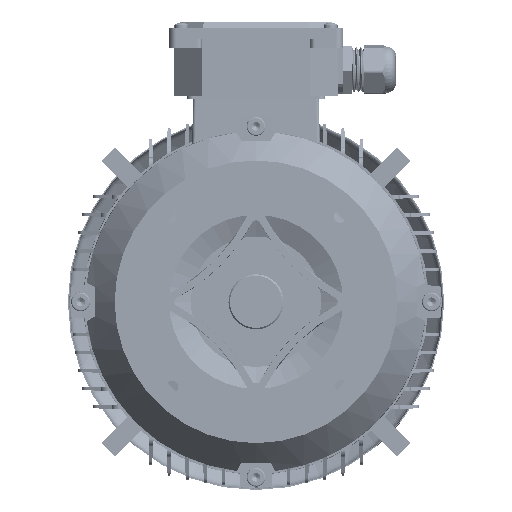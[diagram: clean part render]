
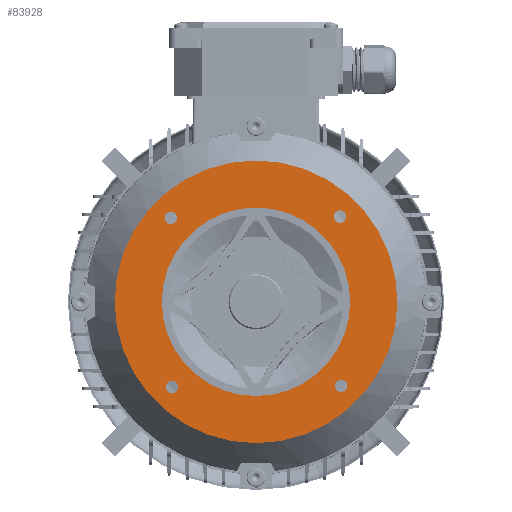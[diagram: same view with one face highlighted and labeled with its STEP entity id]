
A CAD part, front view. The second image highlights one B-rep face of the part: STEP entity #83928.
In plain terms, the highlighted planar face has unit normal (0, -1, 0).
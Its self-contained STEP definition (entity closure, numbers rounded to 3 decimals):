
#1630 = CARTESIAN_POINT ( 'NONE',  ( -57.886, 3.5, -58.783 ) ) ;
#3690 = DIRECTION ( 'NONE',  ( 0., -1., 0. ) ) ;
#4156 = VERTEX_POINT ( 'NONE', #36191 ) ;
#4999 = CIRCLE ( 'NONE', #121334, 4.25 ) ;
#5506 = DIRECTION ( 'NONE',  ( 0., 0., -1. ) ) ;
#6209 = DIRECTION ( 'NONE',  ( 0., -1., 0. ) ) ;
#6800 = EDGE_CURVE ( 'NONE', #69213, #51944, #120770, .T. ) ;
#11183 = CIRCLE ( 'NONE', #17909, 97.5 ) ;
#11679 = EDGE_CURVE ( 'NONE', #4156, #41460, #11183, .T. ) ;
#12064 = DIRECTION ( 'NONE',  ( 0., 0., -1. ) ) ;
#13130 = CARTESIAN_POINT ( 'NONE',  ( -58.783, 3.5, 57.886 ) ) ;
#14325 = CARTESIAN_POINT ( 'NONE',  ( -57.886, 3.5, -54.533 ) ) ;
#16997 = EDGE_CURVE ( 'NONE', #92173, #47431, #4999, .T. ) ;
#17909 = AXIS2_PLACEMENT_3D ( 'NONE', #20717, #93012, #31100 ) ;
#19486 = FACE_BOUND ( 'NONE', #46334, .T. ) ;
#20717 = CARTESIAN_POINT ( 'NONE',  ( 0., 3.5, 0. ) ) ;
#21662 = ORIENTED_EDGE ( 'NONE', *, *, #74277, .F. ) ;
#21903 = AXIS2_PLACEMENT_3D ( 'NONE', #109409, #47461, #119831 ) ;
#22283 = CARTESIAN_POINT ( 'NONE',  ( 0., 3.5, 97.5 ) ) ;
#22712 = VERTEX_POINT ( 'NONE', #44700 ) ;
#23581 = DIRECTION ( 'NONE',  ( 0., 0., -1. ) ) ;
#25705 = ORIENTED_EDGE ( 'NONE', *, *, #28345, .F. ) ;
#26403 = DIRECTION ( 'NONE',  ( 0., -1., 0. ) ) ;
#26617 = ORIENTED_EDGE ( 'NONE', *, *, #16997, .F. ) ;
#28345 = EDGE_CURVE ( 'NONE', #58286, #36464, #66119, .T. ) ;
#28550 = ORIENTED_EDGE ( 'NONE', *, *, #92342, .F. ) ;
#29255 = DIRECTION ( 'NONE',  ( 0., -1., 0. ) ) ;
#30010 = AXIS2_PLACEMENT_3D ( 'NONE', #49395, #121820, #59836 ) ;
#31100 = DIRECTION ( 'NONE',  ( 0., 0., -1. ) ) ;
#31854 = CARTESIAN_POINT ( 'NONE',  ( 0., 3.5, 0. ) ) ;
#34016 = AXIS2_PLACEMENT_3D ( 'NONE', #130166, #6209, #78605 ) ;
#34078 = EDGE_CURVE ( 'NONE', #22712, #116039, #36110, .T. ) ;
#36110 = CIRCLE ( 'NONE', #81292, 4.25 ) ;
#36191 = CARTESIAN_POINT ( 'NONE',  ( 0., 3.5, -97.5 ) ) ;
#36464 = VERTEX_POINT ( 'NONE', #92837 ) ;
#36499 = VERTEX_POINT ( 'NONE', #83300 ) ;
#41241 = EDGE_CURVE ( 'NONE', #51944, #69213, #121229, .T. ) ;
#41460 = VERTEX_POINT ( 'NONE', #22283 ) ;
#41729 = DIRECTION ( 'NONE',  ( 0., -1., 0. ) ) ;
#42241 = DIRECTION ( 'NONE',  ( 0., 0., -1. ) ) ;
#42595 = CIRCLE ( 'NONE', #88022, 4.25 ) ;
#42829 = ORIENTED_EDGE ( 'NONE', *, *, #97238, .F. ) ;
#44700 = CARTESIAN_POINT ( 'NONE',  ( 58.783, 3.5, -62.136 ) ) ;
#46334 = EDGE_LOOP ( 'NONE', ( #21662, #99881 ) ) ;
#46755 = ORIENTED_EDGE ( 'NONE', *, *, #41241, .F. ) ;
#46946 = FACE_OUTER_BOUND ( 'NONE', #115352, .T. ) ;
#47431 = VERTEX_POINT ( 'NONE', #114120 ) ;
#47461 = DIRECTION ( 'NONE',  ( 0., -1., 0. ) ) ;
#49395 = CARTESIAN_POINT ( 'NONE',  ( -57.886, 3.5, -58.783 ) ) ;
#51944 = VERTEX_POINT ( 'NONE', #80555 ) ;
#52729 = EDGE_LOOP ( 'NONE', ( #103976, #42829 ) ) ;
#57801 = PLANE ( 'NONE',  #34016 ) ;
#58286 = VERTEX_POINT ( 'NONE', #79376 ) ;
#59836 = DIRECTION ( 'NONE',  ( 0., 0., -1. ) ) ;
#60023 = EDGE_LOOP ( 'NONE', ( #46755, #111866 ) ) ;
#60236 = CARTESIAN_POINT ( 'NONE',  ( 58.783, 3.5, -57.886 ) ) ;
#63973 = EDGE_LOOP ( 'NONE', ( #25705, #133973 ) ) ;
#65737 = CARTESIAN_POINT ( 'NONE',  ( -58.783, 3.5, 57.886 ) ) ;
#66048 = AXIS2_PLACEMENT_3D ( 'NONE', #13130, #85481, #23581 ) ;
#66119 = CIRCLE ( 'NONE', #66048, 4.25 ) ;
#67566 = DIRECTION ( 'NONE',  ( 0., -1., 0. ) ) ;
#69213 = VERTEX_POINT ( 'NONE', #14325 ) ;
#70652 = DIRECTION ( 'NONE',  ( 0., 0., -1. ) ) ;
#71235 = AXIS2_PLACEMENT_3D ( 'NONE', #1630, #74088, #12064 ) ;
#72012 = AXIS2_PLACEMENT_3D ( 'NONE', #103646, #41729, #114071 ) ;
#74088 = DIRECTION ( 'NONE',  ( 0., -1., 0. ) ) ;
#74277 = EDGE_CURVE ( 'NONE', #124667, #36499, #97686, .T. ) ;
#74505 = FACE_BOUND ( 'NONE', #60023, .T. ) ;
#74863 = EDGE_CURVE ( 'NONE', #41460, #4156, #84600, .T. ) ;
#76152 = DIRECTION ( 'NONE',  ( 0., 0., -1. ) ) ;
#76538 = CARTESIAN_POINT ( 'NONE',  ( 0., 3.5, -65. ) ) ;
#78334 = CARTESIAN_POINT ( 'NONE',  ( 58.783, 3.5, -53.636 ) ) ;
#78605 = DIRECTION ( 'NONE',  ( 0., 0., -1. ) ) ;
#79376 = CARTESIAN_POINT ( 'NONE',  ( -58.783, 3.5, 53.636 ) ) ;
#80555 = CARTESIAN_POINT ( 'NONE',  ( -57.886, 3.5, -63.033 ) ) ;
#81292 = AXIS2_PLACEMENT_3D ( 'NONE', #91195, #29255, #101591 ) ;
#83300 = CARTESIAN_POINT ( 'NONE',  ( 0., 3.5, 65. ) ) ;
#83928 = ADVANCED_FACE ( 'NONE', ( #111739, #129482, #101971, #74505, #46946, #19486 ), #57801, .T. ) ;
#84600 = CIRCLE ( 'NONE', #21903, 97.5 ) ;
#85481 = DIRECTION ( 'NONE',  ( 0., -1., 0. ) ) ;
#88022 = AXIS2_PLACEMENT_3D ( 'NONE', #65737, #3690, #76152 ) ;
#88281 = CARTESIAN_POINT ( 'NONE',  ( 57.886, 3.5, 58.783 ) ) ;
#88837 = CIRCLE ( 'NONE', #72012, 4.25 ) ;
#89674 = CARTESIAN_POINT ( 'NONE',  ( 57.886, 3.5, 63.033 ) ) ;
#91195 = CARTESIAN_POINT ( 'NONE',  ( 58.783, 3.5, -57.886 ) ) ;
#92110 = ORIENTED_EDGE ( 'NONE', *, *, #74863, .T. ) ;
#92173 = VERTEX_POINT ( 'NONE', #89674 ) ;
#92342 = EDGE_CURVE ( 'NONE', #47431, #92173, #88837, .T. ) ;
#92438 = AXIS2_PLACEMENT_3D ( 'NONE', #60236, #132646, #70652 ) ;
#92837 = CARTESIAN_POINT ( 'NONE',  ( -58.783, 3.5, 62.136 ) ) ;
#93012 = DIRECTION ( 'NONE',  ( 0., -1., 0. ) ) ;
#96955 = EDGE_CURVE ( 'NONE', #36464, #58286, #42595, .T. ) ;
#97238 = EDGE_CURVE ( 'NONE', #116039, #22712, #126690, .T. ) ;
#97686 = CIRCLE ( 'NONE', #112818, 65. ) ;
#98728 = DIRECTION ( 'NONE',  ( 0., 0., -1. ) ) ;
#99881 = ORIENTED_EDGE ( 'NONE', *, *, #126101, .F. ) ;
#101591 = DIRECTION ( 'NONE',  ( 0., 0., -1. ) ) ;
#101971 = FACE_BOUND ( 'NONE', #52729, .T. ) ;
#103646 = CARTESIAN_POINT ( 'NONE',  ( 57.886, 3.5, 58.783 ) ) ;
#103976 = ORIENTED_EDGE ( 'NONE', *, *, #34078, .F. ) ;
#104142 = DIRECTION ( 'NONE',  ( 0., -1., 0. ) ) ;
#109409 = CARTESIAN_POINT ( 'NONE',  ( 0., 3.5, 0. ) ) ;
#111739 = FACE_BOUND ( 'NONE', #63973, .T. ) ;
#111866 = ORIENTED_EDGE ( 'NONE', *, *, #6800, .F. ) ;
#112818 = AXIS2_PLACEMENT_3D ( 'NONE', #129500, #67566, #5506 ) ;
#114071 = DIRECTION ( 'NONE',  ( 0., 0., -1. ) ) ;
#114120 = CARTESIAN_POINT ( 'NONE',  ( 57.886, 3.5, 54.533 ) ) ;
#115352 = EDGE_LOOP ( 'NONE', ( #92110, #117460 ) ) ;
#116039 = VERTEX_POINT ( 'NONE', #78334 ) ;
#116217 = AXIS2_PLACEMENT_3D ( 'NONE', #31854, #104142, #42241 ) ;
#117460 = ORIENTED_EDGE ( 'NONE', *, *, #11679, .T. ) ;
#119831 = DIRECTION ( 'NONE',  ( 0., 0., -1. ) ) ;
#120770 = CIRCLE ( 'NONE', #71235, 4.25 ) ;
#121229 = CIRCLE ( 'NONE', #30010, 4.25 ) ;
#121334 = AXIS2_PLACEMENT_3D ( 'NONE', #88281, #26403, #98728 ) ;
#121820 = DIRECTION ( 'NONE',  ( 0., -1., 0. ) ) ;
#124667 = VERTEX_POINT ( 'NONE', #76538 ) ;
#125274 = CIRCLE ( 'NONE', #116217, 65. ) ;
#126101 = EDGE_CURVE ( 'NONE', #36499, #124667, #125274, .T. ) ;
#126690 = CIRCLE ( 'NONE', #92438, 4.25 ) ;
#129482 = FACE_BOUND ( 'NONE', #131362, .T. ) ;
#129500 = CARTESIAN_POINT ( 'NONE',  ( 0., 3.5, 0. ) ) ;
#130166 = CARTESIAN_POINT ( 'NONE',  ( 65., 3.5, 0. ) ) ;
#131362 = EDGE_LOOP ( 'NONE', ( #28550, #26617 ) ) ;
#132646 = DIRECTION ( 'NONE',  ( 0., -1., 0. ) ) ;
#133973 = ORIENTED_EDGE ( 'NONE', *, *, #96955, .F. ) ;
